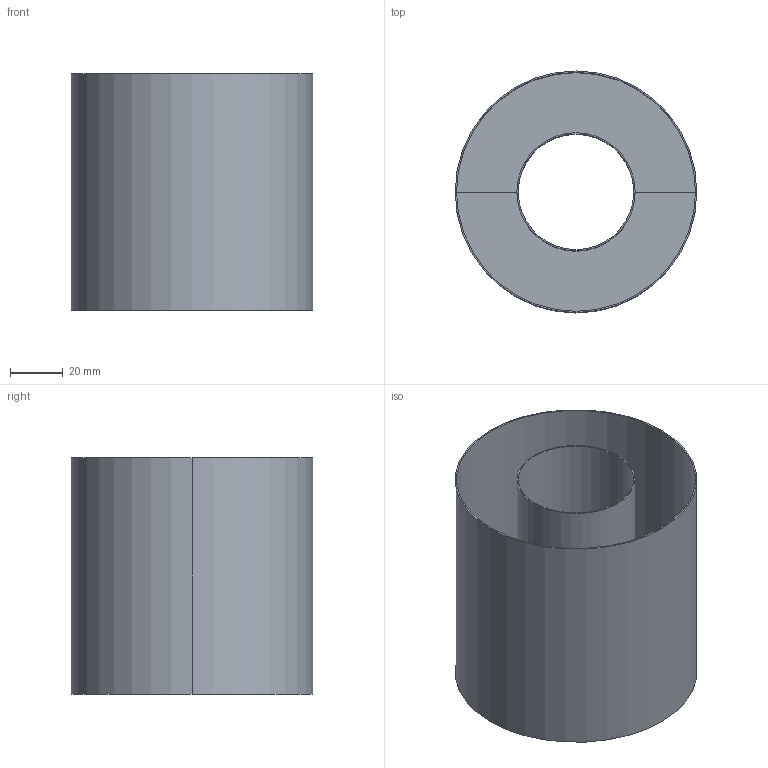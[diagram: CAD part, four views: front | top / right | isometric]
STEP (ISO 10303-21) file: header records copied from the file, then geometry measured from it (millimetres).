
FILE_DESCRIPTION(('BendCAD AP242 PMI export'),'2;1');
FILE_NAME('bendcad.step','',('BendCAD'),('BendCAD'),'BendCAD','BendCAD','');
FILE_SCHEMA(('AP242_MANAGED_MODEL_BASED_3D_ENGINEERING_MIM_LF'));
Length unit declared in the file: millimetre
Products named in the file (1): BENDCAD
Bounding box: 92 x 92 x 90 mm (x, y, z)
Volume: 21683.3 mm3; surface area: 86946.7 mm2
Topology: 1 solids, 1 shells, 16 faces, 32 edges, 16 vertices
Faces by surface type: plane 8, cylinder 8
Entity records: 424 total; most frequent: DIRECTION 82, ORIENTED_EDGE 64, CARTESIAN_POINT 49, AXIS2_PLACEMENT_3D 33, EDGE_CURVE 32, CIRCLE 16, TRIMMED_CURVE 16, VECTOR 16
